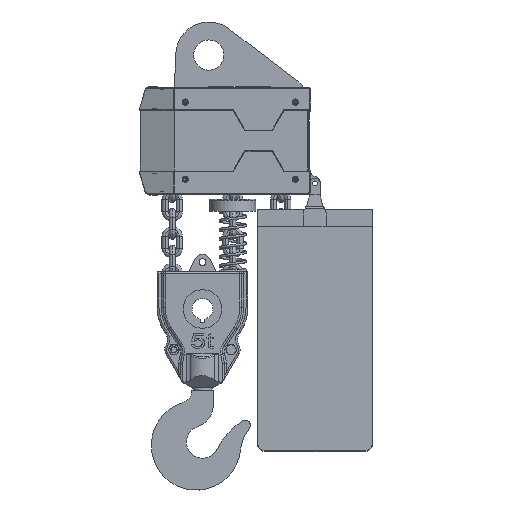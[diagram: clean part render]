
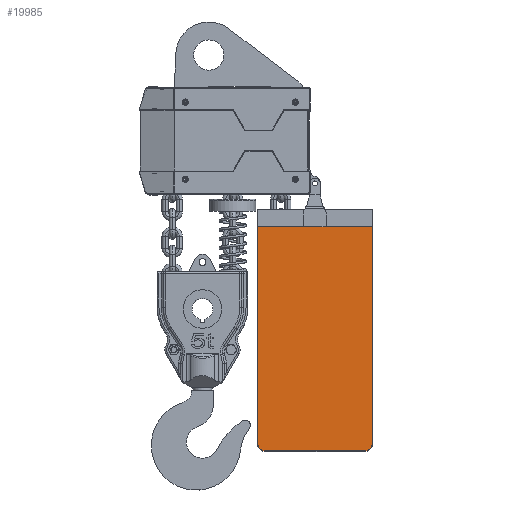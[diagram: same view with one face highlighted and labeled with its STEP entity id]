
A CAD part, top view. The second image highlights one B-rep face of the part: STEP entity #19985.
In plain terms, the highlighted planar face has unit normal (0, 0, 1).
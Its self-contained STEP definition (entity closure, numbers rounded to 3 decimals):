
#3273=LINE('',#95336,#7853);
#3275=LINE('',#95339,#7855);
#3276=LINE('',#95342,#7856);
#3277=LINE('',#95343,#7857);
#7853=VECTOR('',#71479,1.);
#7855=VECTOR('',#71483,1.);
#7856=VECTOR('',#71484,1.);
#7857=VECTOR('',#71485,1.);
#15096=PLANE('',#63988);
#16523=FACE_OUTER_BOUND('',#24899,.T.);
#19985=ADVANCED_FACE('',(#16523),#15096,.T.);
#24899=EDGE_LOOP('',(#30393,#30394,#30395,#30396,#30397,#30398));
#30393=ORIENTED_EDGE('',*,*,#52609,.F.);
#30394=ORIENTED_EDGE('',*,*,#52610,.F.);
#30395=ORIENTED_EDGE('',*,*,#52605,.T.);
#30396=ORIENTED_EDGE('',*,*,#52607,.T.);
#30397=ORIENTED_EDGE('',*,*,#52599,.T.);
#30398=ORIENTED_EDGE('',*,*,#52611,.T.);
#46471=VERTEX_POINT('',#95319);
#46472=VERTEX_POINT('',#95320);
#46477=VERTEX_POINT('',#95331);
#46478=VERTEX_POINT('',#95333);
#46479=VERTEX_POINT('',#95340);
#46480=VERTEX_POINT('',#95341);
#52599=EDGE_CURVE('',#46471,#46472,#60904,.T.);
#52605=EDGE_CURVE('',#46478,#46477,#60907,.T.);
#52607=EDGE_CURVE('',#46477,#46471,#3273,.T.);
#52609=EDGE_CURVE('',#46479,#46480,#3275,.T.);
#52610=EDGE_CURVE('',#46478,#46479,#3276,.T.);
#52611=EDGE_CURVE('',#46472,#46480,#3277,.T.);
#60904=CIRCLE('',#63981,15.);
#60907=CIRCLE('',#63985,15.);
#63981=AXIS2_PLACEMENT_3D('',#95318,#71463,#71464);
#63985=AXIS2_PLACEMENT_3D('',#95332,#71474,#71475);
#63988=AXIS2_PLACEMENT_3D('',#95344,#71486,#71487);
#71463=DIRECTION('',(0.,0.,1.));
#71464=DIRECTION('',(1.,0.,0.));
#71474=DIRECTION('',(0.,0.,1.));
#71475=DIRECTION('',(1.,0.,0.));
#71479=DIRECTION('',(1.,0.,0.));
#71483=DIRECTION('',(1.,0.,0.));
#71484=DIRECTION('',(0.,1.,0.));
#71485=DIRECTION('',(0.,1.,0.));
#71486=DIRECTION('',(0.,0.,1.));
#71487=DIRECTION('',(1.,0.,0.));
#95318=CARTESIAN_POINT('',(1909.312,-249.604,196.225));
#95319=CARTESIAN_POINT('',(1909.312,-264.604,196.225));
#95320=CARTESIAN_POINT('',(1924.312,-249.604,196.225));
#95331=CARTESIAN_POINT('',(1729.812,-264.604,196.225));
#95332=CARTESIAN_POINT('',(1729.812,-249.604,196.225));
#95333=CARTESIAN_POINT('',(1714.812,-249.604,196.225));
#95336=CARTESIAN_POINT('',(1742.812,-264.604,196.225));
#95339=CARTESIAN_POINT('',(1744.812,143.396,196.225));
#95340=CARTESIAN_POINT('',(1714.812,143.396,196.225));
#95341=CARTESIAN_POINT('',(1924.312,143.396,196.225));
#95342=CARTESIAN_POINT('',(1714.812,941.888,196.225));
#95343=CARTESIAN_POINT('',(1924.312,170.396,196.225));
#95344=CARTESIAN_POINT('',(1744.812,170.396,196.225));
